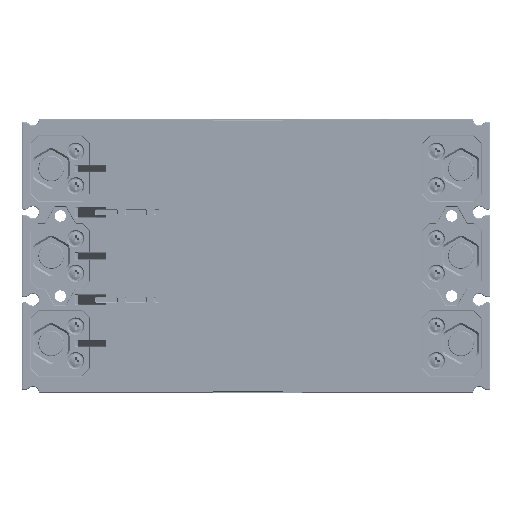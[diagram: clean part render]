
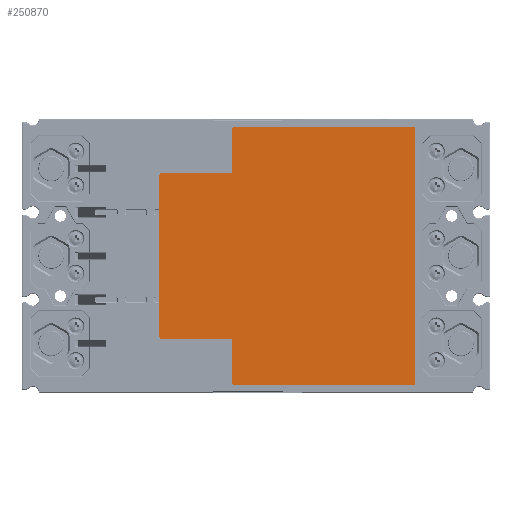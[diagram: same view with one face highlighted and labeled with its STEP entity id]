
A CAD part, front view. The second image highlights one B-rep face of the part: STEP entity #250870.
In plain terms, the highlighted planar face has unit normal (0, -1, 0) as drawn and (0, 0, 1) by its records, which use the part's own axes.
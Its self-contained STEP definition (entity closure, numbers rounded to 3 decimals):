
#250447=CARTESIAN_POINT('',(-44.5,139.5,0.5));
#250448=DIRECTION('',(0.,0.,-1.));
#250449=DIRECTION('',(-1.,0.,0.));
#250450=AXIS2_PLACEMENT_3D('',#250447,#250448,#250449);
#250452=DIRECTION('',(1.,0.,0.));
#250453=VECTOR('',#250452,89.);
#250454=CARTESIAN_POINT('',(-44.5,140.5,0.5));
#250455=LINE('',#250454,#250453);
#250456=CARTESIAN_POINT('',(44.5,139.5,0.5));
#250457=DIRECTION('',(0.,0.,-1.));
#250458=DIRECTION('',(0.,1.,0.));
#250459=AXIS2_PLACEMENT_3D('',#250456,#250457,#250458);
#250461=DIRECTION('',(0.,-1.,0.));
#250462=VECTOR('',#250461,38.);
#250463=CARTESIAN_POINT('',(45.5,139.5,0.5));
#250464=LINE('',#250463,#250462);
#250465=CARTESIAN_POINT('',(46.5,101.5,0.5));
#250466=DIRECTION('',(0.,0.,1.));
#250467=DIRECTION('',(-1.,0.,0.));
#250468=AXIS2_PLACEMENT_3D('',#250465,#250466,#250467);
#250470=DIRECTION('',(1.,0.,0.));
#250471=VECTOR('',#250470,23.5);
#250472=CARTESIAN_POINT('',(46.5,100.5,0.5));
#250473=LINE('',#250472,#250471);
#250474=CARTESIAN_POINT('',(70.,99.5,0.5));
#250475=DIRECTION('',(0.,0.,-1.));
#250476=DIRECTION('',(0.,1.,0.));
#250477=AXIS2_PLACEMENT_3D('',#250474,#250475,#250476);
#250479=DIRECTION('',(0.,-1.,0.));
#250480=VECTOR('',#250479,98.5);
#250481=CARTESIAN_POINT('',(71.,99.5,0.5));
#250482=LINE('',#250481,#250480);
#250483=CARTESIAN_POINT('',(70.,1.,0.5));
#250484=DIRECTION('',(0.,0.,-1.));
#250485=DIRECTION('',(1.,0.,0.));
#250486=AXIS2_PLACEMENT_3D('',#250483,#250484,#250485);
#250488=DIRECTION('',(-1.,0.,0.));
#250489=VECTOR('',#250488,140.);
#250490=CARTESIAN_POINT('',(70.,0.,0.5));
#250491=LINE('',#250490,#250489);
#250492=CARTESIAN_POINT('',(-70.,1.,0.5));
#250493=DIRECTION('',(0.,0.,-1.));
#250494=DIRECTION('',(0.,-1.,0.));
#250495=AXIS2_PLACEMENT_3D('',#250492,#250493,#250494);
#250497=DIRECTION('',(0.,1.,0.));
#250498=VECTOR('',#250497,98.5);
#250499=CARTESIAN_POINT('',(-71.,1.,0.5));
#250500=LINE('',#250499,#250498);
#250501=CARTESIAN_POINT('',(-70.,99.5,0.5));
#250502=DIRECTION('',(0.,0.,-1.));
#250503=DIRECTION('',(-1.,0.,0.));
#250504=AXIS2_PLACEMENT_3D('',#250501,#250502,#250503);
#250506=DIRECTION('',(1.,0.,0.));
#250507=VECTOR('',#250506,23.5);
#250508=CARTESIAN_POINT('',(-70.,100.5,0.5));
#250509=LINE('',#250508,#250507);
#250510=CARTESIAN_POINT('',(-46.5,101.5,0.5));
#250511=DIRECTION('',(0.,0.,1.));
#250512=DIRECTION('',(0.,-1.,0.));
#250513=AXIS2_PLACEMENT_3D('',#250510,#250511,#250512);
#250515=DIRECTION('',(0.,1.,0.));
#250516=VECTOR('',#250515,38.);
#250517=CARTESIAN_POINT('',(-45.5,101.5,0.5));
#250518=LINE('',#250517,#250516);
#250551=CARTESIAN_POINT('',(-44.5,140.5,0.5));
#250552=VERTEX_POINT('',#250551);
#250553=CARTESIAN_POINT('',(-45.5,139.5,0.5));
#250554=VERTEX_POINT('',#250553);
#250555=CARTESIAN_POINT('',(44.5,140.5,0.5));
#250556=VERTEX_POINT('',#250555);
#250557=CARTESIAN_POINT('',(45.5,139.5,0.5));
#250558=VERTEX_POINT('',#250557);
#250559=CARTESIAN_POINT('',(45.5,101.5,0.5));
#250560=VERTEX_POINT('',#250559);
#250561=CARTESIAN_POINT('',(46.5,100.5,0.5));
#250562=VERTEX_POINT('',#250561);
#250563=CARTESIAN_POINT('',(70.,100.5,0.5));
#250564=VERTEX_POINT('',#250563);
#250565=CARTESIAN_POINT('',(71.,99.5,0.5));
#250566=VERTEX_POINT('',#250565);
#250567=CARTESIAN_POINT('',(71.,1.,0.5));
#250568=VERTEX_POINT('',#250567);
#250569=CARTESIAN_POINT('',(70.,0.,0.5));
#250570=VERTEX_POINT('',#250569);
#250571=CARTESIAN_POINT('',(-70.,0.,0.5));
#250572=VERTEX_POINT('',#250571);
#250573=CARTESIAN_POINT('',(-71.,1.,0.5));
#250574=VERTEX_POINT('',#250573);
#250575=CARTESIAN_POINT('',(-71.,99.5,0.5));
#250576=VERTEX_POINT('',#250575);
#250577=CARTESIAN_POINT('',(-70.,100.5,0.5));
#250578=VERTEX_POINT('',#250577);
#250579=CARTESIAN_POINT('',(-46.5,100.5,0.5));
#250580=VERTEX_POINT('',#250579);
#250581=CARTESIAN_POINT('',(-45.5,101.5,0.5));
#250582=VERTEX_POINT('',#250581);
#250847=CARTESIAN_POINT('',(0.,0.,0.5));
#250848=DIRECTION('',(0.,0.,1.));
#250849=DIRECTION('',(1.,0.,0.));
#250850=AXIS2_PLACEMENT_3D('',#250847,#250848,#250849);
#250851=PLANE('',#250850);
#250852=ORIENTED_EDGE('',*,*,#250631,.T.);
#250853=ORIENTED_EDGE('',*,*,#250647,.T.);
#250854=ORIENTED_EDGE('',*,*,#250660,.T.);
#250855=ORIENTED_EDGE('',*,*,#250675,.T.);
#250856=ORIENTED_EDGE('',*,*,#250689,.T.);
#250857=ORIENTED_EDGE('',*,*,#250701,.T.);
#250858=ORIENTED_EDGE('',*,*,#250716,.T.);
#250859=ORIENTED_EDGE('',*,*,#250731,.T.);
#250860=ORIENTED_EDGE('',*,*,#250744,.T.);
#250861=ORIENTED_EDGE('',*,*,#250759,.T.);
#250862=ORIENTED_EDGE('',*,*,#250772,.T.);
#250863=ORIENTED_EDGE('',*,*,#250787,.T.);
#250864=ORIENTED_EDGE('',*,*,#250800,.T.);
#250865=ORIENTED_EDGE('',*,*,#250815,.T.);
#250866=ORIENTED_EDGE('',*,*,#250829,.T.);
#250867=ORIENTED_EDGE('',*,*,#250840,.T.);
#250868=EDGE_LOOP('',(#250852,#250853,#250854,#250855,#250856,#250857,#250858,
#250859,#250860,#250861,#250862,#250863,#250864,#250865,#250866,#250867));
#250869=FACE_OUTER_BOUND('',#250868,.F.);
#250870=ADVANCED_FACE('',(#250869),#250851,.T.);
#250451=CIRCLE('',#250450,1.);
#250460=CIRCLE('',#250459,1.);
#250469=CIRCLE('',#250468,1.);
#250478=CIRCLE('',#250477,1.);
#250487=CIRCLE('',#250486,1.);
#250496=CIRCLE('',#250495,1.);
#250505=CIRCLE('',#250504,1.);
#250514=CIRCLE('',#250513,1.);
#250631=EDGE_CURVE('',#250554,#250552,#250451,.T.);
#250647=EDGE_CURVE('',#250552,#250556,#250455,.T.);
#250660=EDGE_CURVE('',#250556,#250558,#250460,.T.);
#250675=EDGE_CURVE('',#250558,#250560,#250464,.T.);
#250689=EDGE_CURVE('',#250560,#250562,#250469,.T.);
#250701=EDGE_CURVE('',#250562,#250564,#250473,.T.);
#250716=EDGE_CURVE('',#250564,#250566,#250478,.T.);
#250731=EDGE_CURVE('',#250566,#250568,#250482,.T.);
#250744=EDGE_CURVE('',#250568,#250570,#250487,.T.);
#250759=EDGE_CURVE('',#250570,#250572,#250491,.T.);
#250772=EDGE_CURVE('',#250572,#250574,#250496,.T.);
#250787=EDGE_CURVE('',#250574,#250576,#250500,.T.);
#250800=EDGE_CURVE('',#250576,#250578,#250505,.T.);
#250815=EDGE_CURVE('',#250578,#250580,#250509,.T.);
#250829=EDGE_CURVE('',#250580,#250582,#250514,.T.);
#250840=EDGE_CURVE('',#250582,#250554,#250518,.T.);
